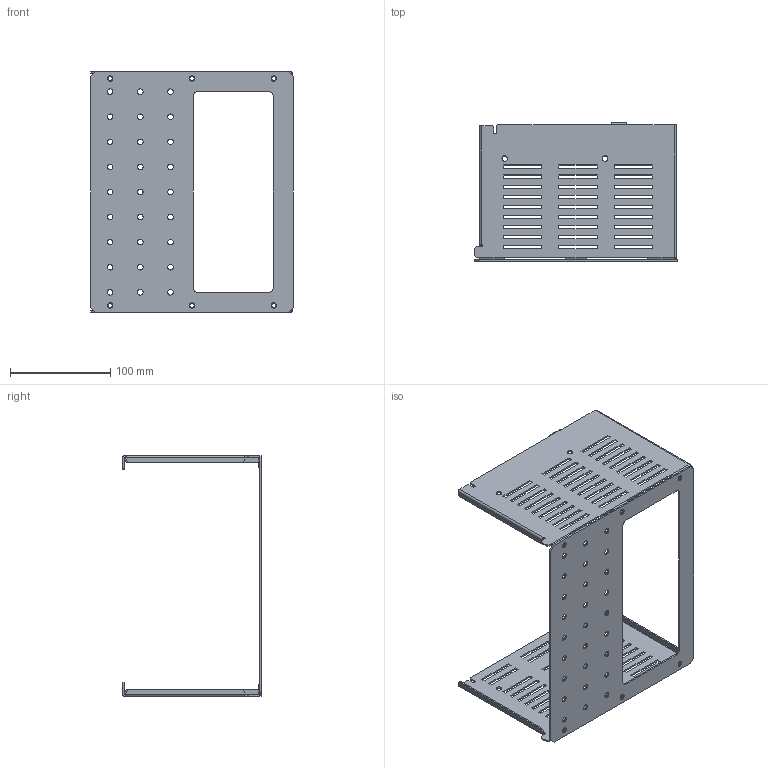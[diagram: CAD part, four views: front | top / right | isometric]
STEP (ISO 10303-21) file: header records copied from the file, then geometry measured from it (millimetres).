
FILE_DESCRIPTION(('CAx-IF Rec.Pracs.---Model Styling and Organization---1.2---2011-12-15','CAx-IF Rec.Pracs.---Geometric and Assembly Validation Properties---4.1---2014-06-16','CAx-IF Rec.Pracs.---PMI Polyline Presentation---2.0---2013-05-24'),'2;1');
FILE_NAME('R5M2W5MRT3C.stp','2021-05-05T13:06:36+03:00',(''),(''),'STEP Interface 4.4 by CT CoreTechnologie','3D_Evolution4.4 by CT CoreTechnologie','');
FILE_SCHEMA(('AUTOMOTIVE_DESIGN { 1 0 10303 214 1 1 1 1 }'));
Length unit declared in the file: millimetre
Products named in the file (4): R5M2W5MRT3C; RB.1468.00.00.0_-03; RB.1465.00.00.0_-01; RB.1465.00.00.0_-00
Assembly tree (3 placements, depth 2):
  R5M2W5MRT3C
    RB.1468.00.00.0_-03
    RB.1465.00.00.0_-01
    RB.1465.00.00.0_-00
Bounding box: 202 x 138.5 x 240 mm (x, y, z)
Surface area: 172896.6 mm2 (no closed solid volume)
Topology: 0 solids, 3 shells, 494 faces, 1447 edges, 959 vertices
Faces by surface type: plane 372, cylinder 118, bspline 4
Entity records: 16956 total; most frequent: CARTESIAN_POINT 3050, ORIENTED_EDGE 2894, DIRECTION 2661, EDGE_CURVE 1447, VECTOR 1209, LINE 1209, VERTEX_POINT 959, AXIS2_PLACEMENT_3D 726
